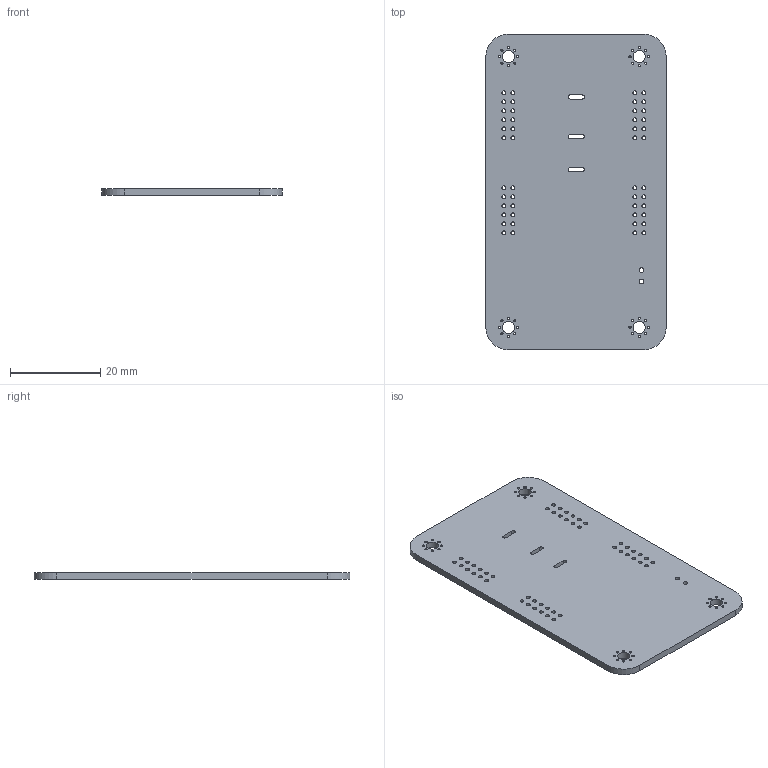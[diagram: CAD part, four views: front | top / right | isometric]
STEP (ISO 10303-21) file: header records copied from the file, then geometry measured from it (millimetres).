
FILE_DESCRIPTION(('KiCad electronic assembly'),'2;1');
FILE_NAME('.step','2026-07-25T17:07:14',('Pcbnew'),('Kicad'), 'Open CASCADE STEP processor 7.9','KiCad to STEP converter','Unknown' );
FILE_SCHEMA(('AUTOMOTIVE_DESIGN { 1 0 10303 214 1 1 1 1 }'));
Length unit declared in the file: millimetre
Products named in the file (2): .step 1; RBF7F60_PCB
Assembly tree (1 placements, depth 2):
  .step 1
    RBF7F60_PCB
Bounding box: 40 x 70 x 1.51 mm (x, y, z)
Volume: 4093.9 mm3; surface area: 6109.5 mm2
Topology: 1 solids, 1 shells, 108 faces, 318 edges, 212 vertices
Faces by surface type: cylinder 96, plane 12
Full cylindrical faces by diameter (mm): 0.5 x32, 0.85 x48, 1.05 x2, 2.7 x4
Entity records: 4107 total; most frequent: DIRECTION 730, CARTESIAN_POINT 640, ORIENTED_EDGE 636, EDGE_CURVE 318, AXIS2_PLACEMENT_3D 302, FACE_BOUND 286, EDGE_LOOP 286, VERTEX_POINT 212
